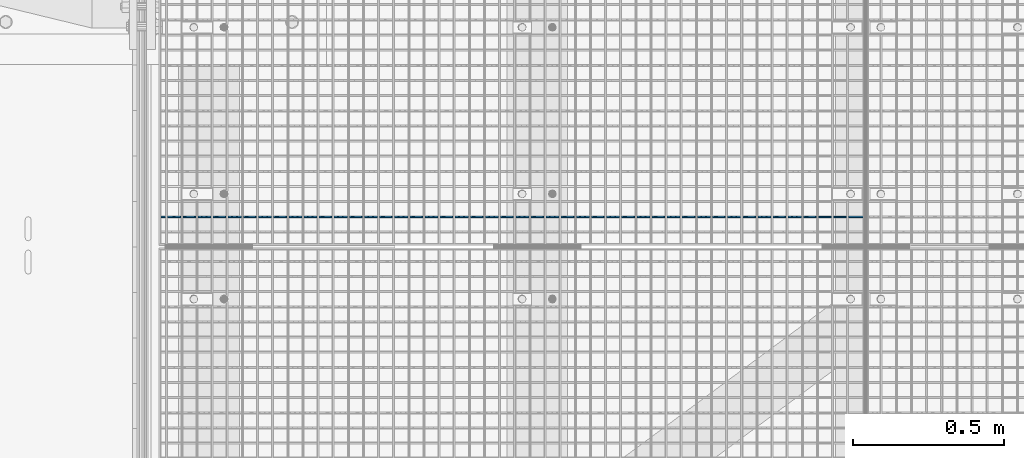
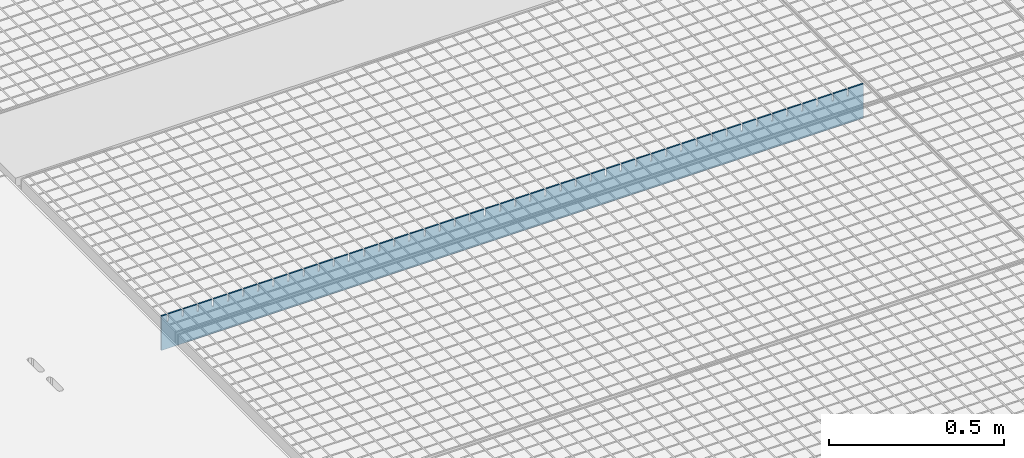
# One storey, part 153 of 1530: 1 beam.
"""IFC2X3 building model written with IfcOpenShell, lengths in millimetres."""

from ifc_helpers import new_model, si_unit, frame, origin_with_axes, place, context, subcontext, project, spatial, faceted_brep, material, type_object, element, save


model = new_model("IFC2X3")

# Units and contexts
model_context = context("Model", 3, precision=1e-05, world=origin_with_axes())
body_context = subcontext(model_context, "Body", "Model", "MODEL_VIEW")
ifc_project = project(units=[si_unit("LENGTHUNIT", "METRE", prefix="MILLI"), si_unit("AREAUNIT", "SQUARE_METRE"), si_unit("VOLUMEUNIT", "CUBIC_METRE"), si_unit("MASSUNIT", "GRAM", prefix="KILO"), si_unit("TIMEUNIT", "SECOND"), si_unit("PLANEANGLEUNIT", "RADIAN"), si_unit("SOLIDANGLEUNIT", "STERADIAN"), si_unit("THERMODYNAMICTEMPERATUREUNIT", "DEGREE_CELSIUS"), si_unit("LUMINOUSINTENSITYUNIT", "LUMEN")], contexts=[model_context])

# Site, building, storey
site_placement = place(None, origin_with_axes())
site = spatial("IfcSite", under=ifc_project, at=site_placement, Name="Brattvåg", CompositionType="ELEMENT")
building_placement = place(site_placement, origin_with_axes())
building = spatial("IfcBuilding", under=site, at=building_placement, Name="Undefined", CompositionType="ELEMENT")
storey_placement = place(building_placement, origin_with_axes())
storey = spatial("IfcBuildingStorey", under=building, at=storey_placement, Name="Undefined", CompositionType="ELEMENT", Elevation=0.0)

# Beam
ifc_material = material(Name="STEEL/S355J2")
beam_type = type_object("IfcBeamType", Name="120*5", PredefinedType="NOTDEFINED")
beam_placement = place(storey_placement, frame((2347.01317977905, 2046.99601745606, -59.9998626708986), z_axis=(0.0, 0.0, 1.0), x_axis=(-1.0, 1.99999855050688e-09, 0.0)))
element("IfcBeam", 1, at=beam_placement, inside=storey, type_object=beam_type, material=ifc_material, Name="GRATING", context=body_context, shape_type="Brep", body=[
    faceted_brep([(99.4490367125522, -2.50000000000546, 60.0000722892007), (99.4490367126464, -2.50000000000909, 35.0001373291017), (99.4490367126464, 2.50022888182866, 35.0001373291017), (99.4490367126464, 2.5, 60.0), (104.449036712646, -2.50000000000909, 35.0001373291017), (104.449036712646, 2.50022888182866, 35.0001373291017), (104.449036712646, -2.50000000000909, 60.0001373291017), (104.449036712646, 2.5, 60.0), (54.5084370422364, -2.50000000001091, 60.0001373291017), (54.5084370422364, 2.5, 60.0), (54.5084370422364, 2.49999999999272, 35.0001373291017), (54.5084370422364, -2.50000000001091, 35.0001373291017), (49.5084370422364, 2.49999999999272, 35.0001373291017), (49.5084370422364, -2.50000000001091, 35.0001373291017), (49.5084370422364, -2.5, 60.0), (49.5084370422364, 2.5, 60.0), (0.0, 2.5, 60.0), (0.0, -2.5, 60.0), (0.0, -2.5, -60.0), (0.0, 2.5, -60.0), (2319.99865722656, 2.5, -60.0), (2319.99865722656, -2.5, -60.0), (2319.99865722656, -2.5, 60.0), (2319.99865722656, 2.5, 60.0), (2302.24871932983, 2.5, 60.0), (2302.24871932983, -2.50000000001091, 60.0001373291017), (2302.24871932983, 2.49999999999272, 35.0001373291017), (2302.24871932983, -2.50000000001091, 35.0001373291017), (2297.24871932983, 2.49999999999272, 35.0001373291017), (2297.24871932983, -2.50000000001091, 35.0001373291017), (2297.24871932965, -2.50000000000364, 60.0000461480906), (2297.24871932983, 2.5, 60.0), (2252.29859649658, 2.5, 60.0), (2252.29859649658, -2.50000000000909, 60.0001373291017), (2252.29859649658, 2.50022888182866, 35.0001373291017), (2252.29859649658, -2.50000000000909, 35.0001373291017), (2247.29859649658, 2.50022888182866, 35.0001373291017), (2247.29859649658, -2.50000000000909, 35.0001373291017), (2247.29859649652, -2.50000000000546, 60.0000848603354), (2247.29859649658, 2.5, 60.0), (2202.34847366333, 2.5, 60.0), (2202.34847366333, -2.50000000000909, 60.0001373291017), (2202.34847366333, 2.50022888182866, 35.0001373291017), (2202.34847366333, -2.50000000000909, 35.0001373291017), (2197.34847366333, 2.50022888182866, 35.0001373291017), (2197.34847366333, -2.50000000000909, 35.0001373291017), (2197.34847366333, -2.5, 60.0), (2197.34847366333, 2.5, 60.0), (2152.39882766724, 2.5, 60.0), (2152.39882766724, -2.50000000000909, 60.0001373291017), (2152.39882766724, 2.50022888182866, 35.0001373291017), (2152.39882766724, -2.50000000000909, 35.0001373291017), (2147.39882766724, 2.50022888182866, 35.0001373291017), (2147.39882766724, -2.50000000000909, 35.0001373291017), (2147.39882766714, -2.50000000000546, 60.0000722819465), (2147.39882766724, 2.5, 60.0), (2102.44870483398, 2.5, 60.0), (2102.44870483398, -2.50000000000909, 60.0001373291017), (2102.44870483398, 2.50022888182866, 35.0001373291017), (2102.44870483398, -2.50000000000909, 35.0001373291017), (2097.44870483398, 2.50022888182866, 35.0001373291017), (2097.44870483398, -2.50000000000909, 35.0001373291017), (2097.44870483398, -2.5, 60.0), (2097.44870483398, 2.5, 60.0), (2052.49858200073, 2.5, 60.0), (2052.49858200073, -2.50000000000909, 60.0001373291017), (2052.49858200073, 2.50022888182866, 35.0001373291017), (2052.49858200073, -2.50000000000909, 35.0001373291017), (2047.49858200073, 2.50022888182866, 35.0001373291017), (2047.49858200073, -2.50000000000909, 35.0001373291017), (2047.49858200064, -2.50000000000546, 60.0000722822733), (2047.49858200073, 2.5, 60.0), (2002.54845916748, 2.5, 60.0), (2002.54845916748, -2.50000000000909, 60.0001373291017), (2002.54845916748, 2.50022888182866, 35.0001373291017), (2002.54845916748, -2.50000000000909, 35.0001373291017), (1997.54845916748, 2.50022888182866, 35.0001373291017), (1997.54845916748, -2.50000000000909, 35.0001373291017), (1997.54845916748, -2.5, 60.0), (1997.54845916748, 2.5, 60.0), (1952.59881317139, 2.5, 60.0), (1952.59881317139, -2.50000000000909, 60.0001373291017), (1952.59881317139, 2.50022888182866, 35.0001373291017), (1952.59881317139, -2.50000000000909, 35.0001373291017), (1947.59881317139, 2.50022888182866, 35.0001373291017), (1947.59881317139, -2.50000000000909, 35.0001373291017), (1947.59881317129, -2.50000000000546, 60.0000722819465), (1947.59881317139, 2.5, 60.0), (1902.64869033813, 2.5, 60.0), (1902.64869033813, -2.50000000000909, 60.0001373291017), (1902.64869033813, 2.50022888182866, 35.0001373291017), (1902.64869033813, -2.50000000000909, 35.0001373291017), (1897.64869033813, 2.50022888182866, 35.0001373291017), (1897.64869033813, -2.50000000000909, 35.0001373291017), (1897.64869033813, -2.5, 60.0), (1897.64869033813, 2.5, 60.0), (1852.69856750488, 2.5, 60.0), (1852.69856750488, -2.50000000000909, 60.0001373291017), (1852.69856750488, 2.50022888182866, 35.0001373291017), (1852.69856750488, -2.50000000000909, 35.0001373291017), (1847.69856750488, 2.50022888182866, 35.0001373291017), (1847.69856750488, -2.50000000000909, 35.0001373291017), (1847.69856750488, -2.5, 60.0), (1847.69856750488, 2.5, 60.0), (1802.74892150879, 2.5, 60.0), (1802.74892150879, -2.50000000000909, 60.0001373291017), (1802.74892150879, 2.50022888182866, 35.0001373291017), (1802.74892150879, -2.50000000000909, 35.0001373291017), (1797.74892150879, 2.50022888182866, 35.0001373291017), (1797.74892150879, -2.50000000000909, 35.0001373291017), (1797.74892150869, -2.50000000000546, 60.0000722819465), (1797.74892150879, 2.5, 60.0), (1752.79879867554, 2.5, 60.0), (1752.79879867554, -2.50000000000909, 60.0001373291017), (1752.79879867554, 2.50022888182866, 35.0001373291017), (1752.79879867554, -2.50000000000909, 35.0001373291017), (1747.79879867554, 2.50022888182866, 35.0001373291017), (1747.79879867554, -2.50000000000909, 35.0001373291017), (1747.79879867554, -2.5, 60.0), (1747.79879867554, 2.5, 60.0), (1702.84867584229, 2.5, 60.0), (1702.84867584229, -2.50000000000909, 60.0001373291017), (1702.84867584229, 2.50022888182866, 35.0001373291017), (1702.84867584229, -2.50000000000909, 35.0001373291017), (1697.84867584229, 2.50022888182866, 35.0001373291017), (1697.84867584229, -2.50000000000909, 35.0001373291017), (1697.84867584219, -2.50000000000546, 60.0000722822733), (1697.84867584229, 2.5, 60.0), (1652.89855300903, 2.5, 60.0), (1652.89855300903, -2.50000000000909, 60.0001373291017), (1652.89855300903, 2.50022888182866, 35.0001373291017), (1652.89855300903, -2.50000000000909, 35.0001373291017), (1647.89855300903, 2.50022888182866, 35.0001373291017), (1647.89855300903, -2.50000000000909, 35.0001373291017), (1647.89855300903, -2.5, 60.0), (1647.89855300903, 2.5, 60.0), (1602.94890701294, 2.5, 60.0), (1602.94890701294, -2.50000000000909, 60.0001373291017), (1602.94890701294, 2.50022888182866, 35.0001373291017), (1602.94890701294, -2.50000000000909, 35.0001373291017), (1597.94890701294, 2.50022888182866, 35.0001373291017), (1597.94890701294, -2.50000000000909, 35.0001373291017), (1597.94890701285, -2.50000000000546, 60.0000722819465), (1597.94890701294, 2.5, 60.0), (1552.99878417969, 2.5, 60.0), (1552.99878417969, -2.50000000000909, 60.0001373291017), (1552.99878417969, 2.50022888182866, 35.0001373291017), (1552.99878417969, -2.50000000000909, 35.0001373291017), (1547.99878417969, 2.50022888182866, 35.0001373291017), (1547.99878417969, -2.50000000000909, 35.0001373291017), (1547.99878417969, -2.5, 60.0), (1547.99878417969, 2.5, 60.0), (1503.04866134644, 2.5, 60.0), (1503.04866134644, -2.50000000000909, 60.0001373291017), (1503.04866134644, 2.50022888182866, 35.0001373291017), (1503.04866134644, -2.50000000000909, 35.0001373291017), (1498.04866134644, 2.50022888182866, 35.0001373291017), (1498.04866134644, -2.50000000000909, 35.0001373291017), (1498.04866134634, -2.50000000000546, 60.0000722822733), (1498.04866134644, 2.5, 60.0), (1453.09853851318, 2.5, 60.0), (1453.09853851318, -2.50000000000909, 60.0001373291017), (1453.09853851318, 2.50022888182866, 35.0001373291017), (1453.09853851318, -2.50000000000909, 35.0001373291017), (1448.09853851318, 2.50022888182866, 35.0001373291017), (1448.09853851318, -2.50000000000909, 35.0001373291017), (1448.09853851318, -2.5, 60.0), (1448.09853851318, 2.5, 60.0), (1403.14889251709, 2.5, 60.0), (1403.14889251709, -2.50000000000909, 60.0001373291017), (1403.14889251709, 2.50022888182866, 35.0001373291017), (1403.14889251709, -2.50000000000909, 35.0001373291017), (1398.14889251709, 2.50022888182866, 35.0001373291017), (1398.14889251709, -2.50000000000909, 35.0001373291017), (1398.148892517, -2.50000000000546, 60.0000722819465), (1398.14889251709, 2.5, 60.0), (1353.19876968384, 2.5, 60.0), (1353.19876968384, -2.50000000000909, 60.0001373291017), (1353.19876968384, 2.50022888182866, 35.0001373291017), (1353.19876968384, -2.50000000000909, 35.0001373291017), (1348.19876968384, 2.50022888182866, 35.0001373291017), (1348.19876968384, -2.50000000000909, 35.0001373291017), (1348.19876968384, -2.5, 60.0), (1348.19876968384, 2.5, 60.0), (1303.24864685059, 2.5, 60.0), (1303.24864685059, -2.50000000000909, 60.0001373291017), (1303.24864685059, 2.50022888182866, 35.0001373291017), (1303.24864685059, -2.50000000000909, 35.0001373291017), (1298.24864685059, 2.50022888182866, 35.0001373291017), (1298.24864685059, -2.50000000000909, 35.0001373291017), (1298.24864685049, -2.50000000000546, 60.0000722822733), (1298.24864685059, 2.5, 60.0), (1253.29852401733, 2.5, 60.0), (1253.29852401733, -2.50000000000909, 60.0001373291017), (1253.29852401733, 2.50022888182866, 35.0001373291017), (1253.29852401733, -2.50000000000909, 35.0001373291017), (1248.29852401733, 2.50022888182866, 35.0001373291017), (1248.29852401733, -2.50000000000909, 35.0001373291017), (1248.29852401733, -2.5, 60.0), (1248.29852401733, 2.5, 60.0), (1203.34887802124, 2.5, 60.0), (1203.34887802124, -2.50000000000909, 60.0001373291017), (1203.34887802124, 2.50022888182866, 35.0001373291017), (1203.34887802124, -2.50000000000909, 35.0001373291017), (1198.34887802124, 2.50022888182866, 35.0001373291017), (1198.34887802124, -2.50000000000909, 35.0001373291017), (1198.34887802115, -2.50000000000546, 60.0000722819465), (1198.34887802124, 2.5, 60.0), (1153.39875518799, 2.5, 60.0), (1153.39875518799, -2.50000000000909, 60.0001373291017), (1153.39875518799, 2.50022888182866, 35.0001373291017), (1153.39875518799, -2.50000000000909, 35.0001373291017), (1148.39875518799, 2.50022888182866, 35.0001373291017), (1148.39875518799, -2.50000000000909, 35.0001373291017), (1148.39875518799, -2.5, 60.0), (1148.39875518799, 2.5, 60.0), (1103.44863235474, 2.5, 60.0), (1103.44863235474, -2.50000000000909, 60.0001373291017), (1103.44863235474, 2.50022888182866, 35.0001373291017), (1103.44863235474, -2.50000000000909, 35.0001373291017), (1098.44863235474, 2.50022888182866, 35.0001373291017), (1098.44863235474, -2.50000000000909, 35.0001373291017), (1098.44863235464, -2.50000000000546, 60.0000722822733), (1098.44863235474, 2.5, 60.0), (1053.49850952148, 2.5, 60.0), (1053.49850952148, -2.50000000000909, 60.0001373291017), (1053.49850952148, 2.50022888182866, 35.0001373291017), (1053.49850952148, -2.50000000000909, 35.0001373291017), (1048.49850952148, 2.50022888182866, 35.0001373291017), (1048.49850952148, -2.50000000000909, 35.0001373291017), (1048.49850952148, -2.5, 60.0), (1048.49850952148, 2.5, 60.0), (1003.54886352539, 2.5, 60.0), (1003.54886352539, -2.50000000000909, 60.0001373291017), (1003.54886352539, 2.50022888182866, 35.0001373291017), (1003.54886352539, -2.50000000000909, 35.0001373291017), (998.548863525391, 2.50022888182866, 35.0001373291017), (998.548863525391, -2.50000000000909, 35.0001373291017), (998.548863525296, -2.50000000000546, 60.0000722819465), (998.548863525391, 2.5, 60.0), (953.598740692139, 2.5, 60.0), (953.598740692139, -2.50000000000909, 60.0001373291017), (953.598740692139, 2.50022888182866, 35.0001373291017), (953.598740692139, -2.50000000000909, 35.0001373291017), (948.598740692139, 2.50022888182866, 35.0001373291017), (948.598740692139, -2.50000000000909, 35.0001373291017), (948.598740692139, -2.5, 60.0), (948.598740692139, 2.5, 60.0), (903.648617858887, 2.5, 60.0), (903.648617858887, -2.50000000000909, 60.0001373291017), (903.648617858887, 2.50022888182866, 35.0001373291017), (903.648617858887, -2.50000000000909, 35.0001373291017), (898.648617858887, 2.50022888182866, 35.0001373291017), (898.648617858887, -2.50000000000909, 35.0001373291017), (898.648617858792, -2.50000000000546, 60.0000722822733), (898.648617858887, 2.5, 60.0), (853.698495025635, 2.5, 60.0), (853.698495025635, -2.50000000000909, 60.0001373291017), (853.698495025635, 2.50022888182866, 35.0001373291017), (853.698495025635, -2.50000000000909, 35.0001373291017), (848.698495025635, 2.50022888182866, 35.0001373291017), (848.698495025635, -2.50000000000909, 35.0001373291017), (848.698495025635, -2.5, 60.0), (848.698495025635, 2.5, 60.0), (803.748849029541, 2.5, 60.0), (803.748849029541, -2.50000000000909, 60.0001373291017), (803.748849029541, 2.50022888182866, 35.0001373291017), (803.748849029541, -2.50000000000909, 35.0001373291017), (798.748849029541, 2.50022888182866, 35.0001373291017), (798.748849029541, -2.50000000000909, 35.0001373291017), (798.748849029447, -2.50000000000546, 60.0000722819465), (798.748849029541, 2.5, 60.0), (753.798726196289, 2.5, 60.0), (753.798726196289, -2.50000000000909, 60.0001373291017), (753.798726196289, 2.50022888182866, 35.0001373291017), (753.798726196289, -2.50000000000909, 35.0001373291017), (748.798726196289, 2.50022888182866, 35.0001373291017), (748.798726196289, -2.50000000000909, 35.0001373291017), (748.798726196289, -2.5, 60.0), (748.798726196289, 2.5, 60.0), (703.848603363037, 2.5, 60.0), (703.848603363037, -2.50000000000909, 60.0001373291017), (703.848603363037, 2.50022888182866, 35.0001373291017), (703.848603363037, -2.50000000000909, 35.0001373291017), (698.848603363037, 2.50022888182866, 35.0001373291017), (698.848603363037, -2.50000000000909, 35.0001373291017), (698.848603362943, -2.50000000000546, 60.0000722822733), (698.848603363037, 2.5, 60.0), (653.898480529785, 2.5, 60.0), (653.898480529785, -2.50000000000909, 60.0001373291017), (653.898480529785, 2.50022888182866, 35.0001373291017), (653.898480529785, -2.50000000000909, 35.0001373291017), (648.898480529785, 2.50022888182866, 35.0001373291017), (648.898480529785, -2.50000000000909, 35.0001373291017), (648.898480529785, -2.5, 60.0), (648.898480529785, 2.5, 60.0), (603.948834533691, 2.5, 60.0), (603.948834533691, -2.50000000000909, 60.0001373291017), (603.948834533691, 2.50022888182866, 35.0001373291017), (603.948834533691, -2.50000000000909, 35.0001373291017), (598.948834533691, 2.50022888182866, 35.0001373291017), (598.948834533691, -2.50000000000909, 35.0001373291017), (598.948834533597, -2.50000000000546, 60.0000722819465), (598.948834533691, 2.5, 60.0), (553.998711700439, 2.5, 60.0), (553.998711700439, -2.50000000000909, 60.0001373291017), (553.998711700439, 2.50022888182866, 35.0001373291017), (553.998711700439, -2.50000000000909, 35.0001373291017), (548.998711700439, 2.50022888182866, 35.0001373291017), (548.998711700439, -2.50000000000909, 35.0001373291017), (548.998711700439, -2.5, 60.0), (548.998711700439, 2.5, 60.0), (504.048588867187, 2.5, 60.0), (504.048588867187, -2.50000000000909, 60.0001373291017), (504.048588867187, 2.50022888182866, 35.0001373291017), (504.048588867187, -2.50000000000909, 35.0001373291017), (499.048588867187, 2.50022888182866, 35.0001373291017), (499.048588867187, -2.50000000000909, 35.0001373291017), (499.048588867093, -2.50000000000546, 60.0000722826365), (499.048588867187, 2.5, 60.0), (454.098942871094, 2.5, 60.0), (454.098942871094, -2.50000000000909, 60.0001373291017), (454.098942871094, 2.50022888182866, 35.0001373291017), (454.098942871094, -2.50000000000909, 35.0001373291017), (449.098942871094, 2.50022888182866, 35.0001373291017), (449.098942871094, -2.50000000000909, 35.0001373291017), (449.098942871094, -2.5, 60.0), (449.098942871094, 2.5, 60.0), (404.148820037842, 2.5, 60.0), (404.148820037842, -2.50000000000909, 60.0001373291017), (404.148820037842, 2.50022888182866, 35.0001373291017), (404.148820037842, -2.50000000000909, 35.0001373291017), (399.148820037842, 2.50022888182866, 35.0001373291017), (399.148820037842, -2.50000000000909, 35.0001373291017), (399.148820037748, -2.50000000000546, 60.0000722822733), (399.148820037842, 2.5, 60.0), (354.19869720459, 2.5, 60.0), (354.19869720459, -2.50000000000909, 60.0001373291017), (354.19869720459, 2.50022888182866, 35.0001373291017), (354.19869720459, -2.50000000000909, 35.0001373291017), (349.19869720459, 2.50022888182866, 35.0001373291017), (349.19869720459, -2.50000000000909, 35.0001373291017), (349.19869720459, -2.5, 60.0), (349.19869720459, 2.5, 60.0), (304.248574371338, 2.5, 60.0), (304.248574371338, -2.50000000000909, 60.0001373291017), (304.248574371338, 2.50022888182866, 35.0001373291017), (304.248574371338, -2.50000000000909, 35.0001373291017), (299.248574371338, 2.50022888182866, 35.0001373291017), (299.248574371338, -2.50000000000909, 35.0001373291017), (299.248574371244, -2.50000000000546, 60.0000722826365), (299.248574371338, 2.5, 60.0), (254.298928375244, 2.5, 60.0), (254.298928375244, -2.50000000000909, 60.0001373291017), (254.298928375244, 2.50022888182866, 35.0001373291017), (254.298928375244, -2.50000000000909, 35.0001373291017), (249.298928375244, 2.50022888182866, 35.0001373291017), (249.298928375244, -2.50000000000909, 35.0001373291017), (249.298928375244, -2.5, 60.0), (249.298928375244, 2.5, 60.0), (204.348328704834, 2.5, 60.0), (204.348328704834, -2.50000000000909, 60.0001373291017), (204.348328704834, 2.50022888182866, 35.0001373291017), (204.348328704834, -2.50000000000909, 35.0001373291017), (199.348328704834, 2.50022888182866, 35.0001373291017), (199.348328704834, -2.50000000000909, 35.0001373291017), (199.34832870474, -2.50000000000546, 60.0000722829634), (199.348328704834, 2.5, 60.0), (154.39868270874, 2.5, 60.0), (154.39868270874, -2.50000000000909, 60.0001373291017), (154.39868270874, 2.50022888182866, 35.0001373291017), (154.39868270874, -2.50000000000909, 35.0001373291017), (149.39868270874, 2.50022888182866, 35.0001373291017), (149.39868270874, -2.50000000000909, 35.0001373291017), (149.39868270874, -2.5, 60.0), (149.39868270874, 2.5, 60.0)], [[[0, 1, 2, 3]], [[4, 5, 2, 1]], [[6, 7, 5, 4]], [[8, 9, 10, 11]], [[11, 10, 12, 13]], [[14, 13, 12, 15]], [[16, 17, 14, 15]], [[18, 17, 16, 19]], [[18, 19, 20, 21]], [[22, 21, 20, 23]], [[22, 23, 24, 25]], [[25, 24, 26, 27]], [[27, 26, 28, 29]], [[30, 29, 28, 31]], [[32, 33, 30, 31]], [[33, 32, 34, 35]], [[35, 34, 36, 37]], [[38, 37, 36, 39]], [[40, 41, 38, 39]], [[41, 40, 42, 43]], [[43, 42, 44, 45]], [[46, 45, 44, 47]], [[46, 47, 48, 49]], [[49, 48, 50, 51]], [[51, 50, 52, 53]], [[54, 53, 52, 55]], [[56, 57, 54, 55]], [[57, 56, 58, 59]], [[59, 58, 60, 61]], [[62, 61, 60, 63]], [[62, 63, 64, 65]], [[65, 64, 66, 67]], [[67, 66, 68, 69]], [[70, 69, 68, 71]], [[72, 73, 70, 71]], [[73, 72, 74, 75]], [[75, 74, 76, 77]], [[78, 77, 76, 79]], [[78, 79, 80, 81]], [[81, 80, 82, 83]], [[83, 82, 84, 85]], [[86, 85, 84, 87]], [[88, 89, 86, 87]], [[89, 88, 90, 91]], [[91, 90, 92, 93]], [[94, 93, 92, 95]], [[94, 95, 96, 97]], [[97, 96, 98, 99]], [[99, 98, 100, 101]], [[102, 101, 100, 103]], [[102, 103, 104, 105]], [[105, 104, 106, 107]], [[107, 106, 108, 109]], [[110, 109, 108, 111]], [[112, 113, 110, 111]], [[113, 112, 114, 115]], [[115, 114, 116, 117]], [[118, 117, 116, 119]], [[118, 119, 120, 121]], [[121, 120, 122, 123]], [[123, 122, 124, 125]], [[126, 125, 124, 127]], [[128, 129, 126, 127]], [[129, 128, 130, 131]], [[131, 130, 132, 133]], [[134, 133, 132, 135]], [[134, 135, 136, 137]], [[137, 136, 138, 139]], [[139, 138, 140, 141]], [[142, 141, 140, 143]], [[144, 145, 142, 143]], [[145, 144, 146, 147]], [[147, 146, 148, 149]], [[150, 149, 148, 151]], [[150, 151, 152, 153]], [[153, 152, 154, 155]], [[155, 154, 156, 157]], [[158, 157, 156, 159]], [[160, 161, 158, 159]], [[161, 160, 162, 163]], [[163, 162, 164, 165]], [[166, 165, 164, 167]], [[166, 167, 168, 169]], [[169, 168, 170, 171]], [[171, 170, 172, 173]], [[174, 173, 172, 175]], [[176, 177, 174, 175]], [[177, 176, 178, 179]], [[179, 178, 180, 181]], [[182, 181, 180, 183]], [[182, 183, 184, 185]], [[185, 184, 186, 187]], [[187, 186, 188, 189]], [[190, 189, 188, 191]], [[192, 193, 190, 191]], [[193, 192, 194, 195]], [[195, 194, 196, 197]], [[198, 197, 196, 199]], [[198, 199, 200, 201]], [[201, 200, 202, 203]], [[203, 202, 204, 205]], [[206, 205, 204, 207]], [[208, 209, 206, 207]], [[209, 208, 210, 211]], [[211, 210, 212, 213]], [[214, 213, 212, 215]], [[214, 215, 216, 217]], [[217, 216, 218, 219]], [[219, 218, 220, 221]], [[222, 221, 220, 223]], [[224, 225, 222, 223]], [[225, 224, 226, 227]], [[227, 226, 228, 229]], [[230, 229, 228, 231]], [[230, 231, 232, 233]], [[233, 232, 234, 235]], [[235, 234, 236, 237]], [[238, 237, 236, 239]], [[240, 241, 238, 239]], [[241, 240, 242, 243]], [[243, 242, 244, 245]], [[246, 245, 244, 247]], [[246, 247, 248, 249]], [[249, 248, 250, 251]], [[251, 250, 252, 253]], [[254, 253, 252, 255]], [[256, 257, 254, 255]], [[257, 256, 258, 259]], [[259, 258, 260, 261]], [[262, 261, 260, 263]], [[262, 263, 264, 265]], [[265, 264, 266, 267]], [[267, 266, 268, 269]], [[270, 269, 268, 271]], [[272, 273, 270, 271]], [[273, 272, 274, 275]], [[275, 274, 276, 277]], [[278, 277, 276, 279]], [[278, 279, 280, 281]], [[281, 280, 282, 283]], [[283, 282, 284, 285]], [[286, 285, 284, 287]], [[288, 289, 286, 287]], [[289, 288, 290, 291]], [[291, 290, 292, 293]], [[294, 293, 292, 295]], [[294, 295, 296, 297]], [[297, 296, 298, 299]], [[299, 298, 300, 301]], [[302, 301, 300, 303]], [[304, 305, 302, 303]], [[305, 304, 306, 307]], [[307, 306, 308, 309]], [[310, 309, 308, 311]], [[310, 311, 312, 313]], [[313, 312, 314, 315]], [[315, 314, 316, 317]], [[318, 317, 316, 319]], [[320, 321, 318, 319]], [[321, 320, 322, 323]], [[323, 322, 324, 325]], [[326, 325, 324, 327]], [[326, 327, 328, 329]], [[329, 328, 330, 331]], [[331, 330, 332, 333]], [[334, 333, 332, 335]], [[336, 337, 334, 335]], [[337, 336, 338, 339]], [[339, 338, 340, 341]], [[342, 341, 340, 343]], [[342, 343, 344, 345]], [[345, 344, 346, 347]], [[347, 346, 348, 349]], [[350, 349, 348, 351]], [[352, 353, 350, 351]], [[353, 352, 354, 355]], [[355, 354, 356, 357]], [[358, 357, 356, 359]], [[358, 359, 360, 361]], [[361, 360, 362, 363]], [[363, 362, 364, 365]], [[366, 365, 364, 367]], [[368, 369, 366, 367]], [[369, 368, 370, 371]], [[371, 370, 372, 373]], [[374, 373, 372, 375]], [[1, 0, 8, 11, 13, 14, 17, 18, 21, 22, 25, 27, 29, 30, 33, 35, 37, 38, 41, 43, 45, 46, 49, 51, 53, 54, 57, 59, 61, 62, 65, 67, 69, 70, 73, 75, 77, 78, 81, 83, 85, 86, 89, 91, 93, 94, 97, 99, 101, 102, 105, 107, 109, 110, 113, 115, 117, 118, 121, 123, 125, 126, 129, 131, 133, 134, 137, 139, 141, 142, 145, 147, 149, 150, 153, 155, 157, 158, 161, 163, 165, 166, 169, 171, 173, 174, 177, 179, 181, 182, 185, 187, 189, 190, 193, 195, 197, 198, 201, 203, 205, 206, 209, 211, 213, 214, 217, 219, 221, 222, 225, 227, 229, 230, 233, 235, 237, 238, 241, 243, 245, 246, 249, 251, 253, 254, 257, 259, 261, 262, 265, 267, 269, 270, 273, 275, 277, 278, 281, 283, 285, 286, 289, 291, 293, 294, 297, 299, 301, 302, 305, 307, 309, 310, 313, 315, 317, 318, 321, 323, 325, 326, 329, 331, 333, 334, 337, 339, 341, 342, 345, 347, 349, 350, 353, 355, 357, 358, 361, 363, 365, 366, 369, 371, 373, 374, 6, 4]], [[9, 8, 0, 3]], [[375, 372, 370, 368, 367, 364, 362, 360, 359, 356, 354, 352, 351, 348, 346, 344, 343, 340, 338, 336, 335, 332, 330, 328, 327, 324, 322, 320, 319, 316, 314, 312, 311, 308, 306, 304, 303, 300, 298, 296, 295, 292, 290, 288, 287, 284, 282, 280, 279, 276, 274, 272, 271, 268, 266, 264, 263, 260, 258, 256, 255, 252, 250, 248, 247, 244, 242, 240, 239, 236, 234, 232, 231, 228, 226, 224, 223, 220, 218, 216, 215, 212, 210, 208, 207, 204, 202, 200, 199, 196, 194, 192, 191, 188, 186, 184, 183, 180, 178, 176, 175, 172, 170, 168, 167, 164, 162, 160, 159, 156, 154, 152, 151, 148, 146, 144, 143, 140, 138, 136, 135, 132, 130, 128, 127, 124, 122, 120, 119, 116, 114, 112, 111, 108, 106, 104, 103, 100, 98, 96, 95, 92, 90, 88, 87, 84, 82, 80, 79, 76, 74, 72, 71, 68, 66, 64, 63, 60, 58, 56, 55, 52, 50, 48, 47, 44, 42, 40, 39, 36, 34, 32, 31, 28, 26, 24, 23, 20, 19, 16, 15, 12, 10, 9, 3, 2, 5, 7]], [[374, 375, 7, 6]]]),
])

save(model, "model.ifc")
